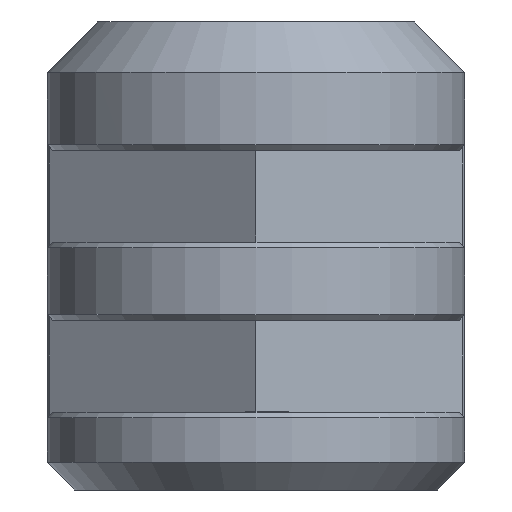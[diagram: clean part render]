
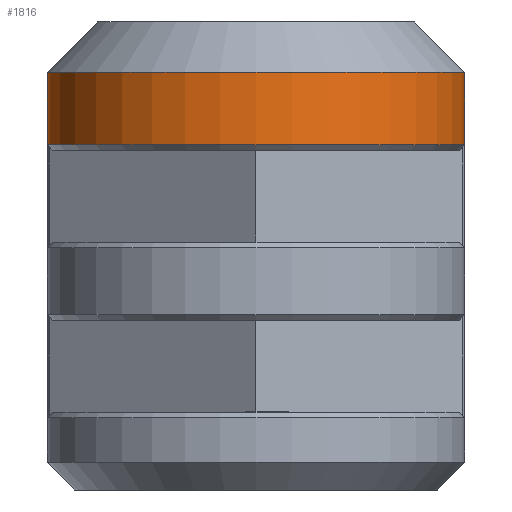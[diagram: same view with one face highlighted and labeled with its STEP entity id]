
A CAD part, left-side view. The second image highlights one B-rep face of the part: STEP entity #1816.
In plain terms, the highlighted cylindrical face has radius 7.5 mm (diameter 15 mm), a partial arc.
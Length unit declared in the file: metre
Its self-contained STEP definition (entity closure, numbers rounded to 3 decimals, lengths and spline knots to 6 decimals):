
#30=ELLIPSE('',#1950,0.010607,0.0075);
#31=ELLIPSE('',#1952,0.010607,0.0075);
#47=CIRCLE('',#1949,0.0075);
#48=CIRCLE('',#1951,0.0075);
#67=CYLINDRICAL_SURFACE('',#1948,0.0075);
#166=ORIENTED_EDGE('',*,*,#597,.T.);
#167=ORIENTED_EDGE('',*,*,#680,.T.);
#168=ORIENTED_EDGE('',*,*,#629,.F.);
#169=ORIENTED_EDGE('',*,*,#681,.T.);
#170=ORIENTED_EDGE('',*,*,#682,.T.);
#171=ORIENTED_EDGE('',*,*,#683,.T.);
#597=EDGE_CURVE('',#858,#857,#1022,.T.);
#629=EDGE_CURVE('',#889,#890,#1054,.T.);
#680=EDGE_CURVE('',#857,#890,#47,.F.);
#681=EDGE_CURVE('',#889,#922,#30,.F.);
#682=EDGE_CURVE('',#922,#921,#48,.F.);
#683=EDGE_CURVE('',#921,#858,#31,.F.);
#857=VERTEX_POINT('',#2573);
#858=VERTEX_POINT('',#2575);
#889=VERTEX_POINT('',#2638);
#890=VERTEX_POINT('',#2640);
#921=VERTEX_POINT('',#2714);
#922=VERTEX_POINT('',#2716);
#1022=LINE('',#2574,#1249);
#1054=LINE('',#2639,#1281);
#1249=VECTOR('',#2068,1.);
#1281=VECTOR('',#2102,1.);
#1490=EDGE_LOOP('',(#166,#167,#168,#169,#170,#171));
#1615=FACE_BOUND('',#1490,.T.);
#1816=ADVANCED_FACE('',(#1615),#67,.T.);
#1948=AXIS2_PLACEMENT_3D('',#2742,#2184,#2185);
#1949=AXIS2_PLACEMENT_3D('',#2743,#2186,#2187);
#1950=AXIS2_PLACEMENT_3D('',#2744,#2188,#2189);
#1951=AXIS2_PLACEMENT_3D('',#2745,#2190,#2191);
#1952=AXIS2_PLACEMENT_3D('',#2746,#2192,#2193);
#2068=DIRECTION('',(0.,0.,-1.));
#2102=DIRECTION('',(0.,0.,-1.));
#2184=DIRECTION('',(0.,0.,-1.));
#2185=DIRECTION('',(-1.,0.,0.));
#2186=DIRECTION('',(0.,0.,-1.));
#2187=DIRECTION('',(-1.,0.,0.));
#2188=DIRECTION('',(0.,0.707,-0.707));
#2189=DIRECTION('',(0.,-0.707,-0.707));
#2190=DIRECTION('',(0.,0.,1.));
#2191=DIRECTION('',(1.,0.,0.));
#2192=DIRECTION('',(0.,-0.707,-0.707));
#2193=DIRECTION('',(0.,0.707,-0.707));
#2573=CARTESIAN_POINT('',(-0.075,0.0075,0.0124));
#2574=CARTESIAN_POINT('',(-0.075,0.0075,0.015));
#2575=CARTESIAN_POINT('',(-0.075,0.0075,0.014));
#2638=CARTESIAN_POINT('',(-0.075,-0.0075,0.014));
#2639=CARTESIAN_POINT('',(-0.075,-0.0075,0.015));
#2640=CARTESIAN_POINT('',(-0.075,-0.0075,0.0124));
#2714=CARTESIAN_POINT('',(-0.071258,0.0065,0.015));
#2716=CARTESIAN_POINT('',(-0.071258,-0.0065,0.015));
#2742=CARTESIAN_POINT('',(-0.075,0.,0.015));
#2743=CARTESIAN_POINT('',(-0.075,0.,0.0124));
#2744=CARTESIAN_POINT('',(-0.075,0.,0.0215));
#2745=CARTESIAN_POINT('',(-0.075,0.,0.015));
#2746=CARTESIAN_POINT('',(-0.075,0.,0.0215));
